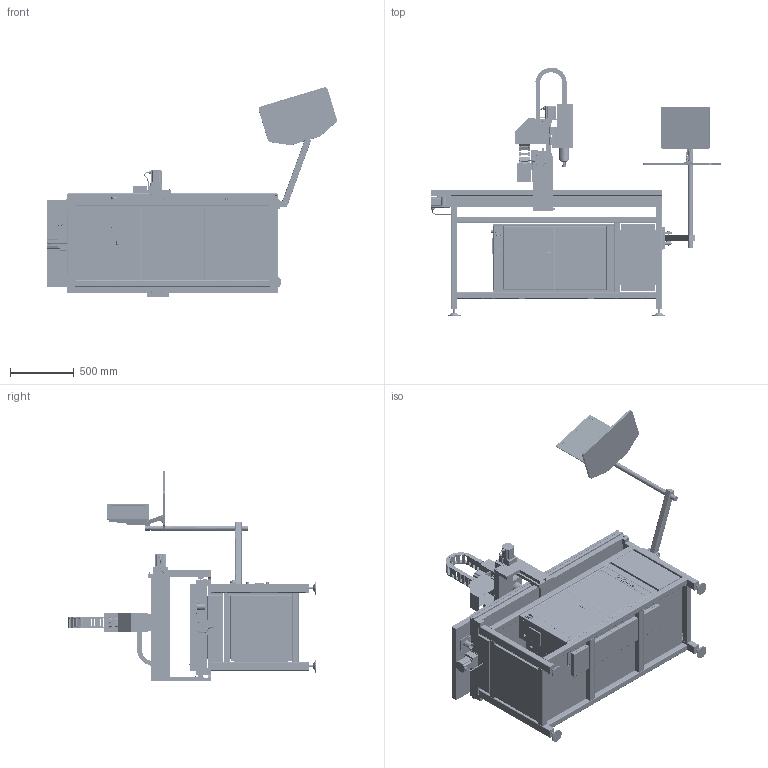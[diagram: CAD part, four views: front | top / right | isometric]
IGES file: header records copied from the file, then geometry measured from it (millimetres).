
Start section: SolidWorks IGES file using analytic representation for surfaces
Global section: file name: C:\Tormach Vault\24R\SOLID MODEL\(0)Machine\Simplified Models\39300_24R_Machine_RevA.IGS; native system: SolidWorks 2016; preprocessor: SolidWorks 2016; author: rhalvorson; date: 200401.121715; units: millimetre
Bounding box: 2267 x 1944.22 x 1638.67 mm (x, y, z)
Volume: 375006257.3 mm3; surface area: 22837394.6 mm2
Topology: 16 solids, 26 shells, 9235 faces, 24585 edges, 15660 vertices
Faces by surface type: plane 6056, revolution 3015, bspline 164
